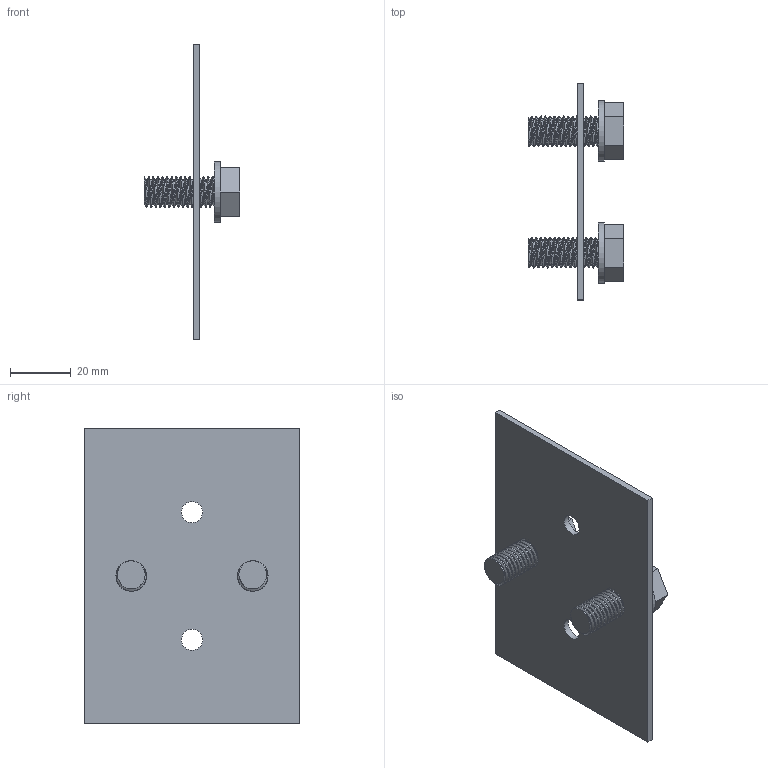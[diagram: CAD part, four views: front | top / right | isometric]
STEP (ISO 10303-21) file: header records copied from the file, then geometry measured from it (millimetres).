
FILE_DESCRIPTION(/* description */ (''),/* implementation_level */ '2;1');
FILE_NAME(/* name */ '33_1000402',/* time_stamp */ '2014-08-07T10:59:28+02:00',/* author */ (''),/* organization */ (''),/* preprocessor_version */ 'ST-DEVELOPER v9',/* originating_system */ 'UGS - NX 4.0',/* authorisation */ '');
FILE_SCHEMA (('CONFIG_CONTROL_DESIGN'));
Length unit declared in the file: millimetre
Products named in the file (1): MTro3787xhr8
Bounding box: 31.4 x 71 x 97.24 mm (x, y, z)
Volume: 20686.5 mm3; surface area: 19498.3 mm2
Topology: 5 solids, 5 shells, 48 faces, 113 edges, 77 vertices
Faces by surface type: plane 30, cylinder 12, bspline 6
Full cylindrical faces by diameter (mm): 6.985 x2, 8.782 x2, 10.5 x2, 20 x2
Entity records: 7968 total; most frequent: CARTESIAN_POINT 6859, ORIENTED_EDGE 200, DIRECTION 184, EDGE_CURVE 100, VERTEX_POINT 72, EDGE_LOOP 70, AXIS2_PLACEMENT_3D 65, LINE 54
